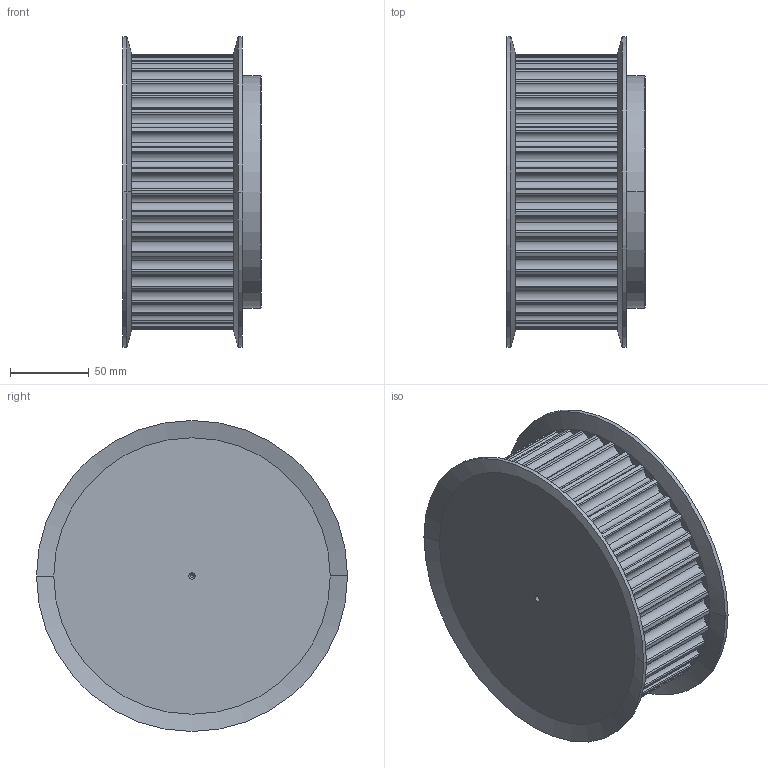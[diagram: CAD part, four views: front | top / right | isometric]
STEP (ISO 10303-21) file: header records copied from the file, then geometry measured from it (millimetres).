
FILE_DESCRIPTION(('STEP AP203'),'1');
FILE_NAME('40_-_14_m_55.stp','2019-06-24T07:35:56',('TraceParts'),('TraceParts S.A.'),'Spatial InterOp 3D',' ',' ');
FILE_SCHEMA(('CONFIG_CONTROL_DESIGN'));
Length unit declared in the file: millimetre
Products named in the file (1): 1
Bounding box: 87.95 x 198 x 198 mm (x, y, z)
Volume: 1891930.3 mm3; surface area: 135416.3 mm2
Topology: 1 solids, 1 shells, 233 faces, 668 edges, 438 vertices
Faces by surface type: cylinder 210, cone 18, plane 5
Entity records: 7886 total; most frequent: DIRECTION 1568, CARTESIAN_POINT 1336, ORIENTED_EDGE 1328, AXIS2_PLACEMENT_3D 670, EDGE_CURVE 664, VERTEX_POINT 438, CIRCLE 436, EDGE_LOOP 238
